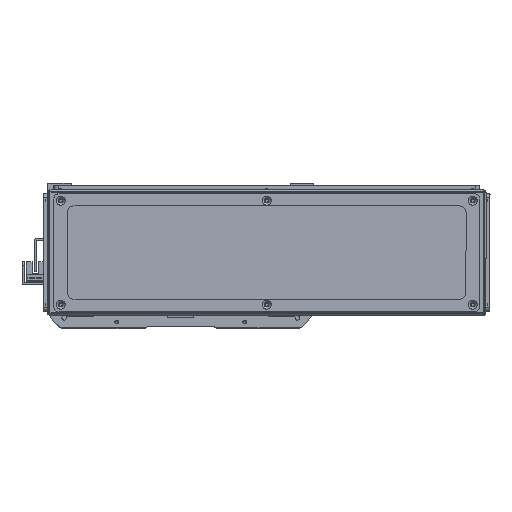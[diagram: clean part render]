
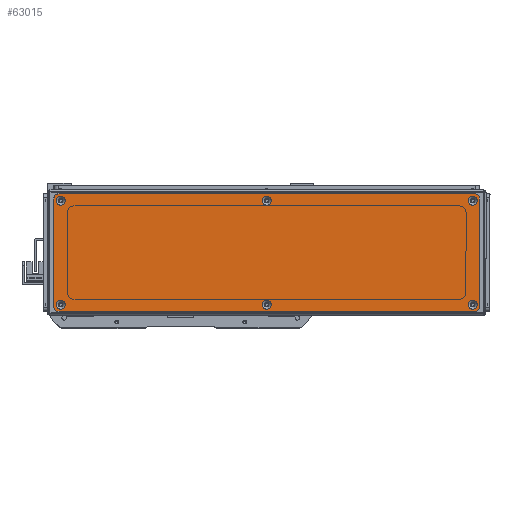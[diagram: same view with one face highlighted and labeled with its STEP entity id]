
A CAD part, front view. The second image highlights one B-rep face of the part: STEP entity #63015.
In plain terms, the highlighted planar face has unit normal (0, -1, 0).
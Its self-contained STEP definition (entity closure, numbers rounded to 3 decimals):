
#2407=FACE_BOUND('',#10335,.T.);
#2408=FACE_BOUND('',#10336,.T.);
#2409=FACE_BOUND('',#10337,.T.);
#2410=FACE_BOUND('',#10338,.T.);
#2411=FACE_BOUND('',#10339,.T.);
#2412=FACE_BOUND('',#10340,.T.);
#3624=CIRCLE('',#67697,3.45);
#3627=CIRCLE('',#67702,3.45);
#3630=CIRCLE('',#67707,3.45);
#3633=CIRCLE('',#67712,3.45);
#3636=CIRCLE('',#67717,3.45);
#3639=CIRCLE('',#67722,3.45);
#3642=CIRCLE('',#67727,3.);
#3644=CIRCLE('',#67730,3.);
#3645=CIRCLE('',#67731,3.);
#3646=CIRCLE('',#67732,3.);
#6753=FACE_OUTER_BOUND('',#10334,.T.);
#10334=EDGE_LOOP('',(#56425,#56426,#56427,#56428,#56429,#56430,#56431,#56432));
#10335=EDGE_LOOP('',(#56433));
#10336=EDGE_LOOP('',(#56434));
#10337=EDGE_LOOP('',(#56435));
#10338=EDGE_LOOP('',(#56436));
#10339=EDGE_LOOP('',(#56437));
#10340=EDGE_LOOP('',(#56438));
#17484=LINE('',#103496,#24751);
#17485=LINE('',#103500,#24752);
#17486=LINE('',#103504,#24753);
#17487=LINE('',#103507,#24754);
#24751=VECTOR('',#83299,10.);
#24752=VECTOR('',#83302,10.);
#24753=VECTOR('',#83305,10.);
#24754=VECTOR('',#83308,10.);
#30674=VERTEX_POINT('',#103426);
#30677=VERTEX_POINT('',#103436);
#30680=VERTEX_POINT('',#103446);
#30683=VERTEX_POINT('',#103456);
#30686=VERTEX_POINT('',#103466);
#30689=VERTEX_POINT('',#103476);
#30692=VERTEX_POINT('',#103486);
#30693=VERTEX_POINT('',#103487);
#30696=VERTEX_POINT('',#103495);
#30697=VERTEX_POINT('',#103497);
#30698=VERTEX_POINT('',#103499);
#30699=VERTEX_POINT('',#103501);
#30700=VERTEX_POINT('',#103503);
#30701=VERTEX_POINT('',#103505);
#39313=EDGE_CURVE('',#30674,#30674,#3624,.T.);
#39318=EDGE_CURVE('',#30677,#30677,#3627,.T.);
#39323=EDGE_CURVE('',#30680,#30680,#3630,.T.);
#39328=EDGE_CURVE('',#30683,#30683,#3633,.T.);
#39333=EDGE_CURVE('',#30686,#30686,#3636,.T.);
#39338=EDGE_CURVE('',#30689,#30689,#3639,.T.);
#39343=EDGE_CURVE('',#30692,#30693,#3642,.T.);
#39347=EDGE_CURVE('',#30692,#30696,#17484,.T.);
#39348=EDGE_CURVE('',#30697,#30696,#3644,.T.);
#39349=EDGE_CURVE('',#30697,#30698,#17485,.T.);
#39350=EDGE_CURVE('',#30699,#30698,#3645,.T.);
#39351=EDGE_CURVE('',#30699,#30700,#17486,.T.);
#39352=EDGE_CURVE('',#30701,#30700,#3646,.T.);
#39353=EDGE_CURVE('',#30701,#30693,#17487,.T.);
#56425=ORIENTED_EDGE('',*,*,#39343,.F.);
#56426=ORIENTED_EDGE('',*,*,#39347,.T.);
#56427=ORIENTED_EDGE('',*,*,#39348,.F.);
#56428=ORIENTED_EDGE('',*,*,#39349,.T.);
#56429=ORIENTED_EDGE('',*,*,#39350,.F.);
#56430=ORIENTED_EDGE('',*,*,#39351,.T.);
#56431=ORIENTED_EDGE('',*,*,#39352,.F.);
#56432=ORIENTED_EDGE('',*,*,#39353,.T.);
#56433=ORIENTED_EDGE('',*,*,#39313,.T.);
#56434=ORIENTED_EDGE('',*,*,#39318,.T.);
#56435=ORIENTED_EDGE('',*,*,#39323,.T.);
#56436=ORIENTED_EDGE('',*,*,#39328,.T.);
#56437=ORIENTED_EDGE('',*,*,#39333,.T.);
#56438=ORIENTED_EDGE('',*,*,#39338,.T.);
#59972=PLANE('',#67729);
#63015=ADVANCED_FACE('',(#6753,#2407,#2408,#2409,#2410,#2411,#2412),#59972,
 .T.);
#67697=AXIS2_PLACEMENT_3D('',#103427,#83219,#83220);
#67702=AXIS2_PLACEMENT_3D('',#103437,#83231,#83232);
#67707=AXIS2_PLACEMENT_3D('',#103447,#83243,#83244);
#67712=AXIS2_PLACEMENT_3D('',#103457,#83255,#83256);
#67717=AXIS2_PLACEMENT_3D('',#103467,#83267,#83268);
#67722=AXIS2_PLACEMENT_3D('',#103477,#83279,#83280);
#67727=AXIS2_PLACEMENT_3D('',#103488,#83291,#83292);
#67729=AXIS2_PLACEMENT_3D('',#103494,#83297,#83298);
#67730=AXIS2_PLACEMENT_3D('',#103498,#83300,#83301);
#67731=AXIS2_PLACEMENT_3D('',#103502,#83303,#83304);
#67732=AXIS2_PLACEMENT_3D('',#103506,#83306,#83307);
#83219=DIRECTION('center_axis',(0.,1.,0.));
#83220=DIRECTION('ref_axis',(1.,0.,0.));
#83231=DIRECTION('center_axis',(0.,1.,0.));
#83232=DIRECTION('ref_axis',(1.,0.,0.));
#83243=DIRECTION('center_axis',(0.,1.,0.));
#83244=DIRECTION('ref_axis',(1.,0.,0.));
#83255=DIRECTION('center_axis',(0.,1.,0.));
#83256=DIRECTION('ref_axis',(1.,0.,0.));
#83267=DIRECTION('center_axis',(0.,1.,0.));
#83268=DIRECTION('ref_axis',(1.,0.,0.));
#83279=DIRECTION('center_axis',(0.,1.,0.));
#83280=DIRECTION('ref_axis',(1.,0.,0.));
#83291=DIRECTION('center_axis',(0.,1.,0.));
#83292=DIRECTION('ref_axis',(-0.707,0.,0.707));
#83297=DIRECTION('center_axis',(0.,-1.,0.));
#83298=DIRECTION('ref_axis',(0.,0.,-1.));
#83299=DIRECTION('',(0.,0.,-1.));
#83300=DIRECTION('center_axis',(0.,1.,0.));
#83301=DIRECTION('ref_axis',(-0.707,0.,-0.707));
#83302=DIRECTION('',(1.,0.,0.));
#83303=DIRECTION('center_axis',(0.,1.,0.));
#83304=DIRECTION('ref_axis',(0.707,0.,-0.707));
#83305=DIRECTION('',(0.,0.,1.));
#83306=DIRECTION('center_axis',(0.,1.,0.));
#83307=DIRECTION('ref_axis',(0.707,0.,0.707));
#83308=DIRECTION('',(-1.,0.,0.));
#103426=CARTESIAN_POINT('',(151.05,-1.5,39.));
#103427=CARTESIAN_POINT('Origin',(154.5,-1.5,39.));
#103436=CARTESIAN_POINT('',(-3.45,-1.5,39.));
#103437=CARTESIAN_POINT('Origin',(0.,-1.5,39.));
#103446=CARTESIAN_POINT('',(-157.95,-1.5,39.));
#103447=CARTESIAN_POINT('Origin',(-154.5,-1.5,39.));
#103456=CARTESIAN_POINT('',(-157.95,-1.5,-39.));
#103457=CARTESIAN_POINT('Origin',(-154.5,-1.5,-39.));
#103466=CARTESIAN_POINT('',(-3.45,-1.5,-39.));
#103467=CARTESIAN_POINT('Origin',(0.,-1.5,-39.));
#103476=CARTESIAN_POINT('',(151.05,-1.5,-39.));
#103477=CARTESIAN_POINT('Origin',(154.5,-1.5,-39.));
#103486=CARTESIAN_POINT('',(-159.5,-1.5,41.));
#103487=CARTESIAN_POINT('',(-156.5,-1.5,44.));
#103488=CARTESIAN_POINT('Origin',(-156.5,-1.5,41.));
#103494=CARTESIAN_POINT('Origin',(0.,-1.5,0.));
#103495=CARTESIAN_POINT('',(-159.5,-1.5,-41.));
#103496=CARTESIAN_POINT('',(-159.5,-1.5,44.));
#103497=CARTESIAN_POINT('',(-156.5,-1.5,-44.));
#103498=CARTESIAN_POINT('Origin',(-156.5,-1.5,-41.));
#103499=CARTESIAN_POINT('',(156.5,-1.5,-44.));
#103500=CARTESIAN_POINT('',(-159.5,-1.5,-44.));
#103501=CARTESIAN_POINT('',(159.5,-1.5,-41.));
#103502=CARTESIAN_POINT('Origin',(156.5,-1.5,-41.));
#103503=CARTESIAN_POINT('',(159.5,-1.5,41.));
#103504=CARTESIAN_POINT('',(159.5,-1.5,-44.));
#103505=CARTESIAN_POINT('',(156.5,-1.5,44.));
#103506=CARTESIAN_POINT('Origin',(156.5,-1.5,41.));
#103507=CARTESIAN_POINT('',(159.5,-1.5,44.));
